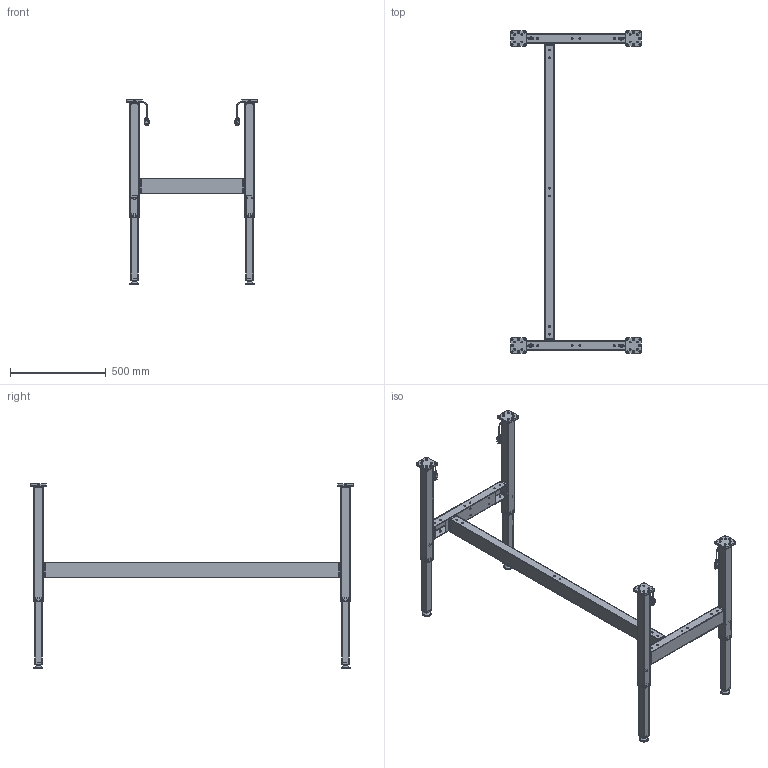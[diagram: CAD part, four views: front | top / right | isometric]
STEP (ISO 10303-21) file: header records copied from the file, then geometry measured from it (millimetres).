
FILE_DESCRIPTION(/* description */ ('Unknown'),/* implementation_level */ '2;1');
FILE_NAME(/* name */ 'Untergestell SE.3 4330 1600_00-Ausgefahren',/* time_stamp */ '2022-02-03T17:18:07+01:00',/* author */ ('Unknown'),/* organization */ ('Unknown'),/* preprocessor_version */ 'ST-DEVELOPER v18.1',/* originating_system */ 'Solid Edge',/* authorisation */ 'Unknown');
FILE_SCHEMA (('AUTOMOTIVE_DESIGN {1 0 10303 214 3 1 1}'));
Length unit declared in the file: millimetre
Products named in the file (29): Untergestell SE.3 4330 1600; 908.02003_oa_0; 127.00655; 127.00658; Aussenrohr 50x50x2 bearbeitet_2018 08 15; Flanschplatte_2018 08 15; Anschweissplatte Traverse_2018 08 15; 127.00658_515_565_Kehlnaht 2_oa_1; 127.00658_515_565_Kehlnaht 2_oa_2; 127.00660; Innenrohr 40x40x2_2018 08 15; Bodenplatte_2018 0815; 128.00070; 142.00077; 142.00166; Kabel Molex; 908.02003_oa_3; 115.00150; 127.00365; 127.00055; 127.00039; 113.00006; 113.00006-ohne Mutter; Mutter M10; 908.02003_oa_6; 908.02003_oa_9; 115.00154; 127.00373; 127.00133
Assembly tree (104 placements, depth 4):
  Untergestell SE.3 4330 1600
    908.02003_oa_0
      127.00655
      127.00658
        Aussenrohr 50x50x2 bearbeitet_2018 08 15
        Flanschplatte_2018 08 15
        Anschweissplatte Traverse_2018 08 15
        127.00658_515_565_Kehlnaht 2_oa_1
        127.00658_515_565_Kehlnaht 2_oa_2
      127.00660
        Innenrohr 40x40x2_2018 08 15
        Bodenplatte_2018 0815
      128.00070  x8
      142.00077  x3
      142.00166  x4
      Kabel Molex
    908.02003_oa_3
      127.00655
      127.00658
        Aussenrohr 50x50x2 bearbeitet_2018 08 15
        Flanschplatte_2018 08 15
        Anschweissplatte Traverse_2018 08 15
        127.00658_515_565_Kehlnaht 2_oa_1
        127.00658_515_565_Kehlnaht 2_oa_2
      127.00660
        Innenrohr 40x40x2_2018 08 15
        Bodenplatte_2018 0815
      128.00070  x8
      142.00077  x3
      142.00166  x4
      Kabel Molex
    115.00150  x2
      127.00365
        127.00055
        127.00039  x2
    113.00006  x4
      113.00006-ohne Mutter
      Mutter M10
    908.02003_oa_6
      127.00655
      127.00658
        Aussenrohr 50x50x2 bearbeitet_2018 08 15
        Flanschplatte_2018 08 15
        Anschweissplatte Traverse_2018 08 15
        127.00658_515_565_Kehlnaht 2_oa_1
        127.00658_515_565_Kehlnaht 2_oa_2
      127.00660
        Innenrohr 40x40x2_2018 08 15
        Bodenplatte_2018 0815
      128.00070  x8
      142.00077  x3
      142.00166  x4
      Kabel Molex
    908.02003_oa_9
      127.00655
      127.00658
        Aussenrohr 50x50x2 bearbeitet_2018 08 15
        Flanschplatte_2018 08 15
        Anschweissplatte Traverse_2018 08 15
        127.00658_515_565_Kehlnaht 2_oa_1
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Bounding box: 680 x 1680 x 963 mm (x, y, z)
Volume: 3345071.2 mm3; surface area: 3015781.4 mm2
Topology: 141 solids, 141 shells, 4286 faces, 10972 edges, 7234 vertices
Faces by surface type: plane 2872, cylinder 894, torus 220, cone 156, bspline 144
Full cylindrical faces by diameter (mm): 4.917 x82, 5 x24, 5.5 x16, 6 x12, 6.5 x12, 6.647 x12, 6.8 x24, 8.376 x8, 8.5 x16, 9 x80, 9.5 x4, 10 x20, 13 x12, 15 x4, 19 x4, 25 x4, 29 x4, 35 x4, 39 x4, 47 x4
Entity records: 35761 total; most frequent: CARTESIAN_POINT 6731, DIRECTION 4838, ORIENTED_EDGE 4458, EDGE_CURVE 2229, AXIS2_PLACEMENT_3D 1721, VERTEX_POINT 1547, LINE 1396, VECTOR 1396
